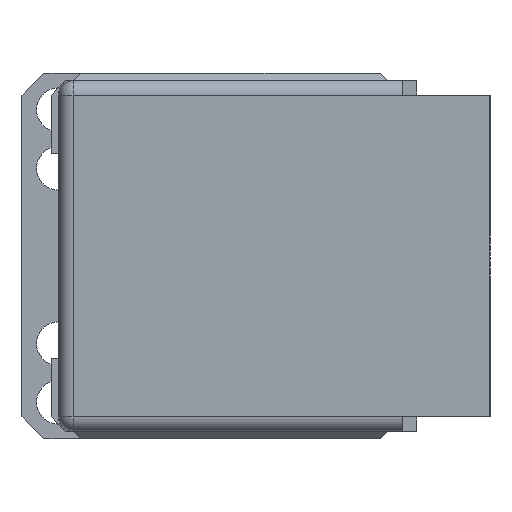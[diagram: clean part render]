
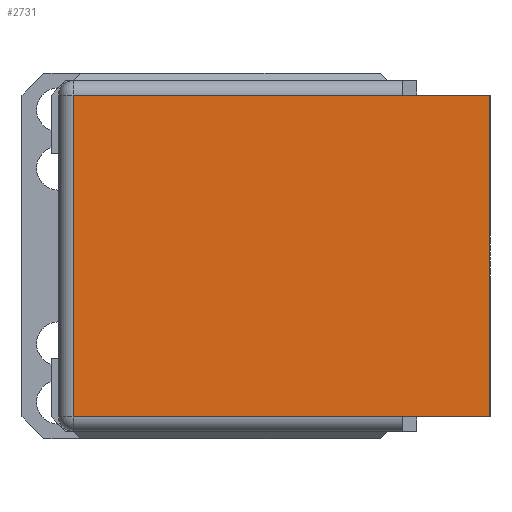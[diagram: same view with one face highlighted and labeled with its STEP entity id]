
A CAD part, left-side view. The second image highlights one B-rep face of the part: STEP entity #2731.
In plain terms, the highlighted planar face has unit normal (-1, 0, 0).
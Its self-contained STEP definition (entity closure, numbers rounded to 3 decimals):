
#36 = LINE ( 'NONE', #2651, #5381 ) ;
#92 = EDGE_CURVE ( 'NONE', #4001, #4553, #2107, .T. ) ;
#104 = VECTOR ( 'NONE', #3792, 1000. ) ;
#146 = CARTESIAN_POINT ( 'NONE',  ( 0., 6., -11. ) ) ;
#385 = ORIENTED_EDGE ( 'NONE', *, *, #92, .F. ) ;
#398 = LINE ( 'NONE', #4585, #1239 ) ;
#568 = DIRECTION ( 'NONE',  ( 0., 0., 1. ) ) ;
#752 = DIRECTION ( 'NONE',  ( 1., 0., 0. ) ) ;
#952 = DIRECTION ( 'NONE',  ( 0., 1., 0. ) ) ;
#1031 = CARTESIAN_POINT ( 'NONE',  ( 0., 28.5, 11. ) ) ;
#1239 = VECTOR ( 'NONE', #1620, 1000. ) ;
#1552 = LINE ( 'NONE', #1031, #2803 ) ;
#1553 = VERTEX_POINT ( 'NONE', #3829 ) ;
#1554 = EDGE_CURVE ( 'NONE', #5337, #4698, #2336, .T. ) ;
#1620 = DIRECTION ( 'NONE',  ( 0., -1., 0. ) ) ;
#1829 = ORIENTED_EDGE ( 'NONE', *, *, #4507, .T. ) ;
#1833 = EDGE_CURVE ( 'NONE', #4698, #4553, #36, .T. ) ;
#2107 = LINE ( 'NONE', #3108, #4237 ) ;
#2195 = CARTESIAN_POINT ( 'NONE',  ( 0., 0., -11. ) ) ;
#2262 = DIRECTION ( 'NONE',  ( 0., -1., 0. ) ) ;
#2336 = LINE ( 'NONE', #3408, #104 ) ;
#2581 = ORIENTED_EDGE ( 'NONE', *, *, #1554, .T. ) ;
#2597 = VECTOR ( 'NONE', #952, 1000. ) ;
#2651 = CARTESIAN_POINT ( 'NONE',  ( 0., 0., 11. ) ) ;
#2667 = AXIS2_PLACEMENT_3D ( 'NONE', #4960, #752, #3695 ) ;
#2731 = ADVANCED_FACE ( 'NONE', ( #3370 ), #5400, .F. ) ;
#2803 = VECTOR ( 'NONE', #3997, 1000. ) ;
#3108 = CARTESIAN_POINT ( 'NONE',  ( 0., 6., 11. ) ) ;
#3185 = EDGE_CURVE ( 'NONE', #1553, #5408, #1552, .T. ) ;
#3328 = ORIENTED_EDGE ( 'NONE', *, *, #3185, .T. ) ;
#3354 = ORIENTED_EDGE ( 'NONE', *, *, #1833, .T. ) ;
#3370 = FACE_OUTER_BOUND ( 'NONE', #5447, .T. ) ;
#3408 = CARTESIAN_POINT ( 'NONE',  ( 0., 6., -11. ) ) ;
#3695 = DIRECTION ( 'NONE',  ( 0., 0., -1. ) ) ;
#3711 = EDGE_CURVE ( 'NONE', #4001, #1553, #4861, .T. ) ;
#3780 = CARTESIAN_POINT ( 'NONE',  ( 0., 0., 11. ) ) ;
#3792 = DIRECTION ( 'NONE',  ( 0., -1., 0. ) ) ;
#3829 = CARTESIAN_POINT ( 'NONE',  ( 0., 28.5, 11. ) ) ;
#3994 = ORIENTED_EDGE ( 'NONE', *, *, #3711, .T. ) ;
#3997 = DIRECTION ( 'NONE',  ( 0., 0., -1. ) ) ;
#4001 = VERTEX_POINT ( 'NONE', #4155 ) ;
#4155 = CARTESIAN_POINT ( 'NONE',  ( 0., 6., 11. ) ) ;
#4237 = VECTOR ( 'NONE', #2262, 1000. ) ;
#4434 = CARTESIAN_POINT ( 'NONE',  ( 0., 28.5, -11. ) ) ;
#4507 = EDGE_CURVE ( 'NONE', #5408, #5337, #398, .T. ) ;
#4553 = VERTEX_POINT ( 'NONE', #3780 ) ;
#4585 = CARTESIAN_POINT ( 'NONE',  ( 0., 6., -11. ) ) ;
#4698 = VERTEX_POINT ( 'NONE', #2195 ) ;
#4749 = CARTESIAN_POINT ( 'NONE',  ( 0., 6., 11. ) ) ;
#4861 = LINE ( 'NONE', #4749, #2597 ) ;
#4960 = CARTESIAN_POINT ( 'NONE',  ( 0., 6., 11. ) ) ;
#5337 = VERTEX_POINT ( 'NONE', #146 ) ;
#5381 = VECTOR ( 'NONE', #568, 1000. ) ;
#5400 = PLANE ( 'NONE',  #2667 ) ;
#5408 = VERTEX_POINT ( 'NONE', #4434 ) ;
#5447 = EDGE_LOOP ( 'NONE', ( #3328, #1829, #2581, #3354, #385, #3994 ) ) ;
